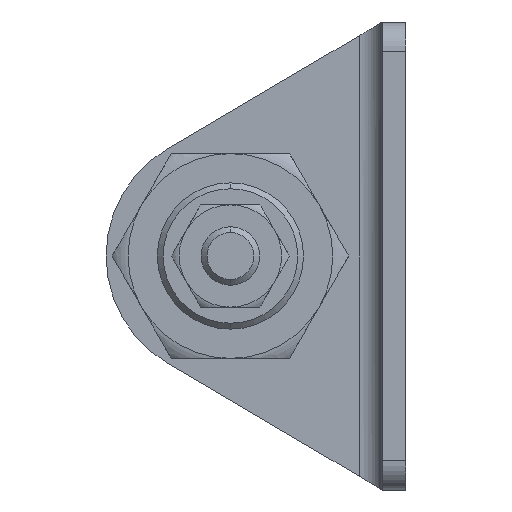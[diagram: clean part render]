
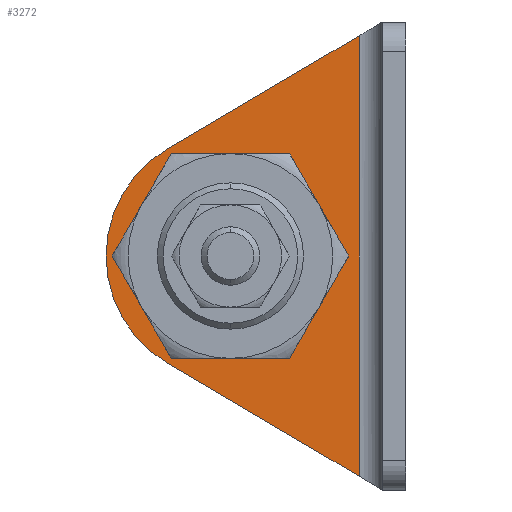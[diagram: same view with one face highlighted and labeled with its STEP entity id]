
A CAD part, left-side view. The second image highlights one B-rep face of the part: STEP entity #3272.
In plain terms, the highlighted planar face has unit normal (-1, 0, 0).
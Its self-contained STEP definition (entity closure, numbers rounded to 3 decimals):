
#13 = CARTESIAN_POINT ( 'NONE',  ( -1.6, 16.317, -7.322 ) ) ;
#173 = CARTESIAN_POINT ( 'NONE',  ( -1.6, 1.6, 16. ) ) ;
#350 = DIRECTION ( 'NONE',  ( 0., -1., 0. ) ) ;
#369 = VECTOR ( 'NONE', #2575, 1000. ) ;
#396 = CARTESIAN_POINT ( 'NONE',  ( -1.6, 17.7, 0. ) ) ;
#443 = ORIENTED_EDGE ( 'NONE', *, *, #3934, .F. ) ;
#495 = DIRECTION ( 'NONE',  ( -1., 0., 0. ) ) ;
#519 = AXIS2_PLACEMENT_3D ( 'NONE', #173, #3704, #1956 ) ;
#637 = EDGE_CURVE ( 'NONE', #2679, #1270, #2955, .T. ) ;
#674 = EDGE_LOOP ( 'NONE', ( #443, #3533 ) ) ;
#688 = VERTEX_POINT ( 'NONE', #1751 ) ;
#698 = VERTEX_POINT ( 'NONE', #3341 ) ;
#815 = CARTESIAN_POINT ( 'NONE',  ( -1.6, 12., 0. ) ) ;
#852 = CARTESIAN_POINT ( 'NONE',  ( -1.6, 15.601, -7.744 ) ) ;
#1270 = VERTEX_POINT ( 'NONE', #2621 ) ;
#1413 = DIRECTION ( 'NONE',  ( 0., -0.861, -0.508 ) ) ;
#1449 = PLANE ( 'NONE',  #519 ) ;
#1455 = ORIENTED_EDGE ( 'NONE', *, *, #1605, .T. ) ;
#1560 = CARTESIAN_POINT ( 'NONE',  ( -1.6, 12., 0. ) ) ;
#1605 = EDGE_CURVE ( 'NONE', #688, #3550, #2720, .T. ) ;
#1632 = FACE_OUTER_BOUND ( 'NONE', #2186, .T. ) ;
#1751 = CARTESIAN_POINT ( 'NONE',  ( -1.6, 16.317, 7.322 ) ) ;
#1758 = DIRECTION ( 'NONE',  ( 0., -1., 0. ) ) ;
#1862 = CARTESIAN_POINT ( 'NONE',  ( -1.6, 3.2, 16. ) ) ;
#1892 = AXIS2_PLACEMENT_3D ( 'NONE', #2975, #495, #2710 ) ;
#1900 = CIRCLE ( 'NONE', #2920, 5.7 ) ;
#1956 = DIRECTION ( 'NONE',  ( 0., -1., 0. ) ) ;
#1980 = LINE ( 'NONE', #852, #3749 ) ;
#2004 = AXIS2_PLACEMENT_3D ( 'NONE', #1560, #2066, #350 ) ;
#2066 = DIRECTION ( 'NONE',  ( -1., 0., 0. ) ) ;
#2186 = EDGE_LOOP ( 'NONE', ( #3979, #1455, #2669, #3470 ) ) ;
#2259 = DIRECTION ( 'NONE',  ( 0., 0., -1. ) ) ;
#2529 = EDGE_CURVE ( 'NONE', #3404, #688, #2756, .T. ) ;
#2575 = DIRECTION ( 'NONE',  ( 0., 0.861, -0.508 ) ) ;
#2621 = CARTESIAN_POINT ( 'NONE',  ( -1.6, 6.3, 0. ) ) ;
#2650 = EDGE_CURVE ( 'NONE', #3404, #698, #2846, .T. ) ;
#2669 = ORIENTED_EDGE ( 'NONE', *, *, #2987, .T. ) ;
#2679 = VERTEX_POINT ( 'NONE', #396 ) ;
#2710 = DIRECTION ( 'NONE',  ( 0., -1., 0. ) ) ;
#2720 = CIRCLE ( 'NONE', #2004, 8.5 ) ;
#2756 = LINE ( 'NONE', #2828, #369 ) ;
#2828 = CARTESIAN_POINT ( 'NONE',  ( -1.6, 1.6, 16. ) ) ;
#2846 = LINE ( 'NONE', #1862, #2864 ) ;
#2864 = VECTOR ( 'NONE', #2259, 1000. ) ;
#2920 = AXIS2_PLACEMENT_3D ( 'NONE', #815, #3167, #1758 ) ;
#2955 = CIRCLE ( 'NONE', #1892, 5.7 ) ;
#2975 = CARTESIAN_POINT ( 'NONE',  ( -1.6, 12., 0. ) ) ;
#2987 = EDGE_CURVE ( 'NONE', #3550, #698, #1980, .T. ) ;
#3167 = DIRECTION ( 'NONE',  ( -1., 0., 0. ) ) ;
#3272 = ADVANCED_FACE ( 'NONE', ( #3289, #1632 ), #1449, .T. ) ;
#3289 = FACE_BOUND ( 'NONE', #674, .T. ) ;
#3341 = CARTESIAN_POINT ( 'NONE',  ( -1.6, 3.2, -15.057 ) ) ;
#3404 = VERTEX_POINT ( 'NONE', #3740 ) ;
#3470 = ORIENTED_EDGE ( 'NONE', *, *, #2650, .F. ) ;
#3533 = ORIENTED_EDGE ( 'NONE', *, *, #637, .F. ) ;
#3550 = VERTEX_POINT ( 'NONE', #13 ) ;
#3704 = DIRECTION ( 'NONE',  ( -1., 0., 0. ) ) ;
#3740 = CARTESIAN_POINT ( 'NONE',  ( -1.6, 3.2, 15.057 ) ) ;
#3749 = VECTOR ( 'NONE', #1413, 1000. ) ;
#3934 = EDGE_CURVE ( 'NONE', #1270, #2679, #1900, .T. ) ;
#3979 = ORIENTED_EDGE ( 'NONE', *, *, #2529, .T. ) ;
